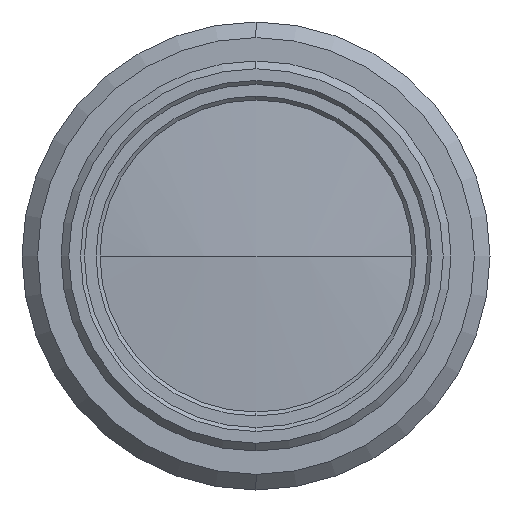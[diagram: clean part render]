
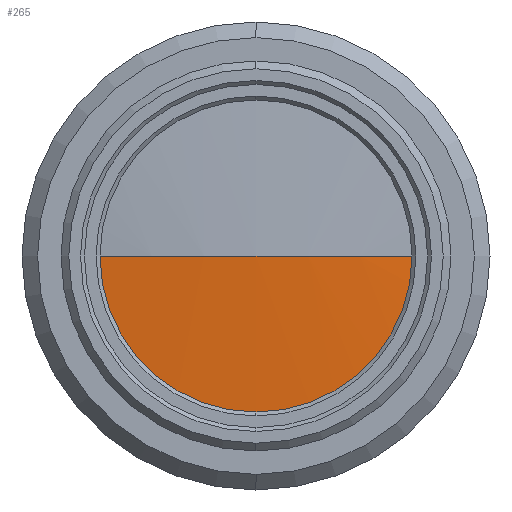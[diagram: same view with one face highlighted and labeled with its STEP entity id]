
A CAD part, left-side view. The second image highlights one B-rep face of the part: STEP entity #265.
In plain terms, the highlighted spherical face has radius 96 mm.
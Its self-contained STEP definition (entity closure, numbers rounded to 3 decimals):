
#55 = CARTESIAN_POINT ( 'NONE',  ( 100.818, 0., 0. ) ) ;
#65 = DIRECTION ( 'NONE',  ( 0., 1., 0. ) ) ;
#68 = EDGE_CURVE ( 'NONE', #79, #1114, #961, .T. ) ;
#79 = VERTEX_POINT ( 'NONE', #1572 ) ;
#92 = CARTESIAN_POINT ( 'NONE',  ( 4.818, 0., 0. ) ) ;
#114 = DIRECTION ( 'NONE',  ( -1., 0., 0. ) ) ;
#124 = CIRCLE ( 'NONE', #1695, 96. ) ;
#265 = ADVANCED_FACE ( 'NONE', ( #1273 ), #405, .T. ) ;
#275 = CARTESIAN_POINT ( 'NONE',  ( 5.341, 0., 0. ) ) ;
#394 = AXIS2_PLACEMENT_3D ( 'NONE', #275, #114, #1609 ) ;
#405 = SPHERICAL_SURFACE ( 'NONE', #1076, 96. ) ;
#476 = EDGE_CURVE ( 'NONE', #704, #79, #543, .T. ) ;
#543 = CIRCLE ( 'NONE', #394, 10. ) ;
#704 = VERTEX_POINT ( 'NONE', #709 ) ;
#709 = CARTESIAN_POINT ( 'NONE',  ( 5.341, 0., -10. ) ) ;
#723 = DIRECTION ( 'NONE',  ( 0., 0., -1. ) ) ;
#733 = CARTESIAN_POINT ( 'NONE',  ( 5.341, 0., 0. ) ) ;
#744 = EDGE_LOOP ( 'NONE', ( #1635, #1188, #1590, #1249 ) ) ;
#829 = EDGE_CURVE ( 'NONE', #1233, #1114, #124, .T. ) ;
#869 = CIRCLE ( 'NONE', #898, 10. ) ;
#884 = DIRECTION ( 'NONE',  ( -1., 0., 0. ) ) ;
#898 = AXIS2_PLACEMENT_3D ( 'NONE', #733, #884, #1404 ) ;
#961 = CIRCLE ( 'NONE', #1098, 96. ) ;
#1052 = DIRECTION ( 'NONE',  ( 0., 0., -1. ) ) ;
#1076 = AXIS2_PLACEMENT_3D ( 'NONE', #1623, #723, #1772 ) ;
#1098 = AXIS2_PLACEMENT_3D ( 'NONE', #1729, #1052, #65 ) ;
#1114 = VERTEX_POINT ( 'NONE', #92 ) ;
#1188 = ORIENTED_EDGE ( 'NONE', *, *, #68, .T. ) ;
#1233 = VERTEX_POINT ( 'NONE', #1331 ) ;
#1249 = ORIENTED_EDGE ( 'NONE', *, *, #1476, .T. ) ;
#1273 = FACE_OUTER_BOUND ( 'NONE', #744, .T. ) ;
#1331 = CARTESIAN_POINT ( 'NONE',  ( 5.341, 10., 0. ) ) ;
#1404 = DIRECTION ( 'NONE',  ( 0., 0., 1. ) ) ;
#1476 = EDGE_CURVE ( 'NONE', #1233, #704, #869, .T. ) ;
#1560 = DIRECTION ( 'NONE',  ( 0., 0., 1. ) ) ;
#1572 = CARTESIAN_POINT ( 'NONE',  ( 5.341, -10., 0. ) ) ;
#1590 = ORIENTED_EDGE ( 'NONE', *, *, #829, .F. ) ;
#1609 = DIRECTION ( 'NONE',  ( 0., 0., 1. ) ) ;
#1623 = CARTESIAN_POINT ( 'NONE',  ( 100.818, 0., 0. ) ) ;
#1635 = ORIENTED_EDGE ( 'NONE', *, *, #476, .T. ) ;
#1688 = DIRECTION ( 'NONE',  ( 1., 0., 0. ) ) ;
#1695 = AXIS2_PLACEMENT_3D ( 'NONE', #55, #1560, #1688 ) ;
#1729 = CARTESIAN_POINT ( 'NONE',  ( 100.818, 0., 0. ) ) ;
#1772 = DIRECTION ( 'NONE',  ( 0., 1., 0. ) ) ;
